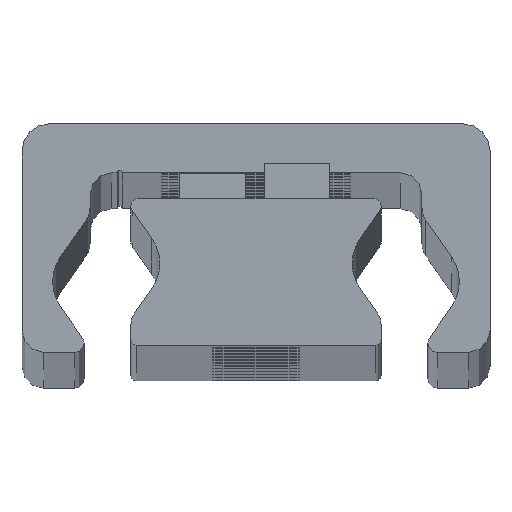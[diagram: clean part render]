
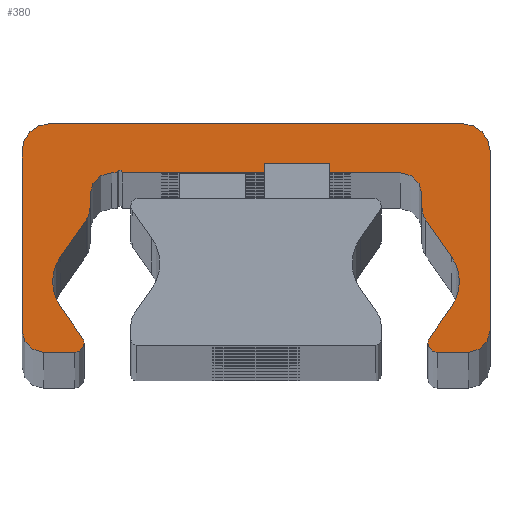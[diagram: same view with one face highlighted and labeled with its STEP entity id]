
A CAD part, top view. The second image highlights one B-rep face of the part: STEP entity #380.
In plain terms, the highlighted planar face has unit normal (0, 0, 1).
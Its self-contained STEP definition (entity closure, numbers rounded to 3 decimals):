
#380=ADVANCED_FACE('',(#1114),#1115,.T.);
#1114=FACE_OUTER_BOUND('',#1849,.T.);
#1115=PLANE('',#1850);
#1849=EDGE_LOOP('',(#4298,#4299,#4300,#4301,#4302,#4303,#4304,#4305,#4306,#4307,#4308,#4309,#4310,#4311,#4312,#4313,#4314,#4315,#4316,#4317,#4318,#4319,#4320,#4321,#4322,#4323,#4324,#4325,#4326,#4327));
#1850=AXIS2_PLACEMENT_3D('',#4328,#4329,#4330);
#4298=ORIENTED_EDGE('',*,*,#4799,.F.);
#4299=ORIENTED_EDGE('',*,*,#5142,.F.);
#4300=ORIENTED_EDGE('',*,*,#4785,.F.);
#4301=ORIENTED_EDGE('',*,*,#5141,.F.);
#4302=ORIENTED_EDGE('',*,*,#5137,.F.);
#4303=ORIENTED_EDGE('',*,*,#5134,.F.);
#4304=ORIENTED_EDGE('',*,*,#5131,.F.);
#4305=ORIENTED_EDGE('',*,*,#5128,.F.);
#4306=ORIENTED_EDGE('',*,*,#5125,.F.);
#4307=ORIENTED_EDGE('',*,*,#5122,.F.);
#4308=ORIENTED_EDGE('',*,*,#5119,.F.);
#4309=ORIENTED_EDGE('',*,*,#5116,.F.);
#4310=ORIENTED_EDGE('',*,*,#5113,.F.);
#4311=ORIENTED_EDGE('',*,*,#5110,.F.);
#4312=ORIENTED_EDGE('',*,*,#4791,.F.);
#4313=ORIENTED_EDGE('',*,*,#5108,.F.);
#4314=ORIENTED_EDGE('',*,*,#4793,.F.);
#4315=ORIENTED_EDGE('',*,*,#5107,.F.);
#4316=ORIENTED_EDGE('',*,*,#5103,.F.);
#4317=ORIENTED_EDGE('',*,*,#5100,.F.);
#4318=ORIENTED_EDGE('',*,*,#5097,.F.);
#4319=ORIENTED_EDGE('',*,*,#5094,.F.);
#4320=ORIENTED_EDGE('',*,*,#5091,.F.);
#4321=ORIENTED_EDGE('',*,*,#5088,.F.);
#4322=ORIENTED_EDGE('',*,*,#5085,.F.);
#4323=ORIENTED_EDGE('',*,*,#5082,.F.);
#4324=ORIENTED_EDGE('',*,*,#5079,.F.);
#4325=ORIENTED_EDGE('',*,*,#5076,.F.);
#4326=ORIENTED_EDGE('',*,*,#5073,.F.);
#4327=ORIENTED_EDGE('',*,*,#5070,.F.);
#4328=CARTESIAN_POINT('',(-0.023,14.187,927.0));
#4329=DIRECTION('',(0.0,0.0,1.0));
#4330=DIRECTION('',(1.0,0.0,0.0));
#4785=EDGE_CURVE('',#5812,#5815,#5816,.T.);
#4791=EDGE_CURVE('',#5825,#5821,#5827,.T.);
#4793=EDGE_CURVE('',#5828,#5831,#5832,.T.);
#4799=EDGE_CURVE('',#5841,#5837,#5843,.T.);
#5070=EDGE_CURVE('',#5837,#6278,#6279,.T.);
#5073=EDGE_CURVE('',#6278,#6283,#6284,.T.);
#5076=EDGE_CURVE('',#6283,#6288,#6289,.T.);
#5079=EDGE_CURVE('',#6288,#6293,#6294,.T.);
#5082=EDGE_CURVE('',#6293,#6298,#6299,.T.);
#5085=EDGE_CURVE('',#6298,#6303,#6304,.T.);
#5088=EDGE_CURVE('',#6303,#6308,#6309,.T.);
#5091=EDGE_CURVE('',#6308,#6313,#6314,.T.);
#5094=EDGE_CURVE('',#6313,#6318,#6319,.T.);
#5097=EDGE_CURVE('',#6318,#6323,#6324,.T.);
#5100=EDGE_CURVE('',#6323,#6328,#6329,.T.);
#5103=EDGE_CURVE('',#6328,#6333,#6334,.T.);
#5107=EDGE_CURVE('',#6333,#5828,#6339,.T.);
#5108=EDGE_CURVE('',#5831,#5825,#6340,.T.);
#5110=EDGE_CURVE('',#5821,#6342,#6343,.T.);
#5113=EDGE_CURVE('',#6342,#6347,#6348,.T.);
#5116=EDGE_CURVE('',#6347,#6352,#6353,.T.);
#5119=EDGE_CURVE('',#6352,#6357,#6358,.T.);
#5122=EDGE_CURVE('',#6357,#6362,#6363,.T.);
#5125=EDGE_CURVE('',#6362,#6367,#6368,.T.);
#5128=EDGE_CURVE('',#6367,#6372,#6373,.T.);
#5131=EDGE_CURVE('',#6372,#6377,#6378,.T.);
#5134=EDGE_CURVE('',#6377,#6382,#6383,.T.);
#5137=EDGE_CURVE('',#6382,#6387,#6388,.T.);
#5141=EDGE_CURVE('',#6387,#5812,#6393,.T.);
#5142=EDGE_CURVE('',#5815,#5841,#6394,.T.);
#5812=VERTEX_POINT('',#7268);
#5815=VERTEX_POINT('',#7272);
#5816=CIRCLE('',#7273,0.85);
#5821=VERTEX_POINT('',#7279);
#5825=VERTEX_POINT('',#7284);
#5827=CIRCLE('',#7287,0.85);
#5828=VERTEX_POINT('',#7288);
#5831=VERTEX_POINT('',#7292);
#5832=CIRCLE('',#7293,4.);
#5837=VERTEX_POINT('',#7299);
#5841=VERTEX_POINT('',#7304);
#5843=CIRCLE('',#7307,4.);
#6278=VERTEX_POINT('',#7864);
#6279=CIRCLE('',#7865,4.);
#6283=VERTEX_POINT('',#7870);
#6284=LINE('',#7871,#7872);
#6288=VERTEX_POINT('',#7878);
#6289=CIRCLE('',#7879,2.);
#6293=VERTEX_POINT('',#7884);
#6294=LINE('',#7885,#7886);
#6298=VERTEX_POINT('',#7892);
#6299=CIRCLE('',#7893,2.0);
#6303=VERTEX_POINT('',#7898);
#6304=LINE('',#7899,#7900);
#6308=VERTEX_POINT('',#7906);
#6309=CIRCLE('',#7907,0.25);
#6313=VERTEX_POINT('',#7912);
#6314=LINE('',#7913,#7914);
#6318=VERTEX_POINT('',#7920);
#6319=CIRCLE('',#7921,2.0);
#6323=VERTEX_POINT('',#7926);
#6324=LINE('',#7927,#7928);
#6328=VERTEX_POINT('',#7934);
#6329=CIRCLE('',#7935,2.0);
#6333=VERTEX_POINT('',#7940);
#6334=LINE('',#7941,#7942);
#6339=CIRCLE('',#7949,4.);
#6340=LINE('',#7950,#7951);
#6342=VERTEX_POINT('',#7954);
#6343=CIRCLE('',#7955,0.85);
#6347=VERTEX_POINT('',#7960);
#6348=LINE('',#7961,#7962);
#6352=VERTEX_POINT('',#7968);
#6353=CIRCLE('',#7969,2.);
#6357=VERTEX_POINT('',#7974);
#6358=LINE('',#7975,#7976);
#6362=VERTEX_POINT('',#7982);
#6363=CIRCLE('',#7983,2.5);
#6367=VERTEX_POINT('',#7988);
#6368=LINE('',#7989,#7990);
#6372=VERTEX_POINT('',#7996);
#6373=CIRCLE('',#7997,2.5);
#6377=VERTEX_POINT('',#8002);
#6378=LINE('',#8003,#8004);
#6382=VERTEX_POINT('',#8010);
#6383=CIRCLE('',#8011,2.);
#6387=VERTEX_POINT('',#8016);
#6388=LINE('',#8017,#8018);
#6393=CIRCLE('',#8025,0.85);
#6394=LINE('',#8026,#8027);
#7268=CARTESIAN_POINT('',(15.8,1.859,927.0));
#7272=CARTESIAN_POINT('',(15.922,2.298,927.0));
#7273=AXIS2_PLACEMENT_3D('',#8883,#8884,#8885);
#7279=CARTESIAN_POINT('',(-15.8,1.859,927.0));
#7284=CARTESIAN_POINT('',(-15.922,2.298,927.0));
#7287=AXIS2_PLACEMENT_3D('',#8895,#8896,#8897);
#7288=CARTESIAN_POINT('',(-18.688,7.509,927.0));
#7292=CARTESIAN_POINT('',(-17.964,5.214,927.0));
#7293=AXIS2_PLACEMENT_3D('',#8899,#8900,#8901);
#7299=CARTESIAN_POINT('',(18.688,7.509,927.0));
#7304=CARTESIAN_POINT('',(17.964,5.214,927.0));
#7307=AXIS2_PLACEMENT_3D('',#8911,#8912,#8913);
#7864=CARTESIAN_POINT('',(17.964,9.803,927.0));
#7865=AXIS2_PLACEMENT_3D('',#9480,#9481,#9482);
#7870=CARTESIAN_POINT('',(15.612,13.163,927.0));
#7871=CARTESIAN_POINT('',(15.612,13.163,927.0));
#7872=VECTOR('',#9487,1.0);
#7878=CARTESIAN_POINT('',(15.25,14.31,927.0));
#7879=AXIS2_PLACEMENT_3D('',#9490,#9491,#9492);
#7884=CARTESIAN_POINT('',(15.25,15.509,927.0));
#7885=CARTESIAN_POINT('',(15.25,15.509,927.0));
#7886=VECTOR('',#9497,1.0);
#7892=CARTESIAN_POINT('',(13.25,17.509,927.0));
#7893=AXIS2_PLACEMENT_3D('',#9500,#9501,#9502);
#7898=CARTESIAN_POINT('',(-12.25,17.509,927.0));
#7899=CARTESIAN_POINT('',(-12.25,17.509,927.0));
#7900=VECTOR('',#9507,1.0);
#7906=CARTESIAN_POINT('',(-12.75,17.509,927.0));
#7907=AXIS2_PLACEMENT_3D('',#9510,#9511,#9512);
#7912=CARTESIAN_POINT('',(-13.25,17.509,927.0));
#7913=CARTESIAN_POINT('',(-13.25,17.509,927.0));
#7914=VECTOR('',#9517,1.0);
#7920=CARTESIAN_POINT('',(-15.25,15.509,927.0));
#7921=AXIS2_PLACEMENT_3D('',#9520,#9521,#9522);
#7926=CARTESIAN_POINT('',(-15.25,14.31,927.0));
#7927=CARTESIAN_POINT('',(-15.25,14.31,927.0));
#7928=VECTOR('',#9527,1.0);
#7934=CARTESIAN_POINT('',(-15.612,13.163,927.0));
#7935=AXIS2_PLACEMENT_3D('',#9530,#9531,#9532);
#7940=CARTESIAN_POINT('',(-17.964,9.803,927.0));
#7941=CARTESIAN_POINT('',(-17.964,9.803,927.0));
#7942=VECTOR('',#9537,1.);
#7949=AXIS2_PLACEMENT_3D('',#9543,#9544,#9545);
#7950=CARTESIAN_POINT('',(-15.922,2.298,927.0));
#7951=VECTOR('',#9546,1.0);
#7954=CARTESIAN_POINT('',(-16.65,1.009,927.0));
#7955=AXIS2_PLACEMENT_3D('',#9548,#9549,#9550);
#7960=CARTESIAN_POINT('',(-19.5,1.009,927.0));
#7961=CARTESIAN_POINT('',(-19.5,1.009,927.0));
#7962=VECTOR('',#9555,1.0);
#7968=CARTESIAN_POINT('',(-21.5,3.009,927.0));
#7969=AXIS2_PLACEMENT_3D('',#9558,#9559,#9560);
#7974=CARTESIAN_POINT('',(-21.5,19.509,927.0));
#7975=CARTESIAN_POINT('',(-21.5,19.509,927.0));
#7976=VECTOR('',#9565,1.0);
#7982=CARTESIAN_POINT('',(-19.0,22.009,927.0));
#7983=AXIS2_PLACEMENT_3D('',#9568,#9569,#9570);
#7988=CARTESIAN_POINT('',(19.0,22.009,927.0));
#7989=CARTESIAN_POINT('',(19.0,22.009,927.0));
#7990=VECTOR('',#9575,1.0);
#7996=CARTESIAN_POINT('',(21.5,19.509,927.0));
#7997=AXIS2_PLACEMENT_3D('',#9578,#9579,#9580);
#8002=CARTESIAN_POINT('',(21.5,3.009,927.0));
#8003=CARTESIAN_POINT('',(21.5,3.009,927.0));
#8004=VECTOR('',#9585,1.0);
#8010=CARTESIAN_POINT('',(19.5,1.009,927.0));
#8011=AXIS2_PLACEMENT_3D('',#9588,#9589,#9590);
#8016=CARTESIAN_POINT('',(16.65,1.009,927.0));
#8017=CARTESIAN_POINT('',(16.65,1.009,927.0));
#8018=VECTOR('',#9595,1.0);
#8025=AXIS2_PLACEMENT_3D('',#9601,#9602,#9603);
#8026=CARTESIAN_POINT('',(17.964,5.214,927.0));
#8027=VECTOR('',#9604,1.0);
#8883=CARTESIAN_POINT('',(16.65,1.859,927.0));
#8884=DIRECTION('',(0.0,0.0,-1.0));
#8885=DIRECTION('',(1.0,0.0,0.0));
#8895=CARTESIAN_POINT('',(-16.65,1.859,927.0));
#8896=DIRECTION('',(0.0,0.0,-1.0));
#8897=DIRECTION('',(1.0,0.0,0.0));
#8899=CARTESIAN_POINT('',(-14.688,7.509,927.0));
#8900=DIRECTION('',(0.0,0.0,1.0));
#8901=DIRECTION('',(1.0,0.0,0.0));
#8911=CARTESIAN_POINT('',(14.688,7.509,927.0));
#8912=DIRECTION('',(0.0,0.0,1.0));
#8913=DIRECTION('',(1.0,0.0,0.0));
#9480=CARTESIAN_POINT('',(14.688,7.509,927.0));
#9481=DIRECTION('',(0.0,0.0,1.0));
#9482=DIRECTION('',(1.0,0.0,0.0));
#9487=DIRECTION('',(-0.574,0.819,0.0));
#9490=CARTESIAN_POINT('',(17.25,14.31,927.0));
#9491=DIRECTION('',(0.0,0.0,-1.0));
#9492=DIRECTION('',(1.0,0.0,0.0));
#9497=DIRECTION('',(0.0,1.0,0.0));
#9500=CARTESIAN_POINT('',(13.25,15.509,927.0));
#9501=DIRECTION('',(0.0,0.0,1.0));
#9502=DIRECTION('',(1.0,0.0,0.0));
#9507=DIRECTION('',(-1.0,-0.0,-0.0));
#9510=CARTESIAN_POINT('',(-12.5,17.509,927.0));
#9511=DIRECTION('',(0.0,0.0,1.0));
#9512=DIRECTION('',(1.0,0.0,0.0));
#9517=DIRECTION('',(-1.0,-0.0,-0.0));
#9520=CARTESIAN_POINT('',(-13.25,15.509,927.0));
#9521=DIRECTION('',(0.0,0.0,1.0));
#9522=DIRECTION('',(1.0,0.0,0.0));
#9527=DIRECTION('',(-0.0,-1.0,-0.0));
#9530=CARTESIAN_POINT('',(-17.25,14.31,927.0));
#9531=DIRECTION('',(0.0,0.0,-1.0));
#9532=DIRECTION('',(1.0,0.0,0.0));
#9537=DIRECTION('',(-0.574,-0.819,-0.0));
#9543=CARTESIAN_POINT('',(-14.688,7.509,927.0));
#9544=DIRECTION('',(0.0,0.0,1.0));
#9545=DIRECTION('',(1.0,0.0,0.0));
#9546=DIRECTION('',(0.574,-0.819,0.0));
#9548=CARTESIAN_POINT('',(-16.65,1.859,927.0));
#9549=DIRECTION('',(0.0,0.0,-1.0));
#9550=DIRECTION('',(1.0,0.0,0.0));
#9555=DIRECTION('',(-1.0,-0.0,-0.0));
#9558=CARTESIAN_POINT('',(-19.5,3.009,927.0));
#9559=DIRECTION('',(0.0,0.0,-1.0));
#9560=DIRECTION('',(1.0,0.0,0.0));
#9565=DIRECTION('',(0.0,1.0,0.0));
#9568=CARTESIAN_POINT('',(-19.0,19.509,927.0));
#9569=DIRECTION('',(0.0,0.0,-1.0));
#9570=DIRECTION('',(1.0,0.0,0.0));
#9575=DIRECTION('',(1.0,0.0,0.0));
#9578=CARTESIAN_POINT('',(19.0,19.509,927.0));
#9579=DIRECTION('',(0.0,0.0,-1.0));
#9580=DIRECTION('',(1.0,0.0,0.0));
#9585=DIRECTION('',(-0.0,-1.0,-0.0));
#9588=CARTESIAN_POINT('',(19.5,3.009,927.0));
#9589=DIRECTION('',(0.0,0.0,-1.0));
#9590=DIRECTION('',(1.0,0.0,0.0));
#9595=DIRECTION('',(-1.0,-0.0,-0.0));
#9601=CARTESIAN_POINT('',(16.65,1.859,927.0));
#9602=DIRECTION('',(0.0,0.0,-1.0));
#9603=DIRECTION('',(1.0,0.0,0.0));
#9604=DIRECTION('',(0.574,0.819,0.0));
